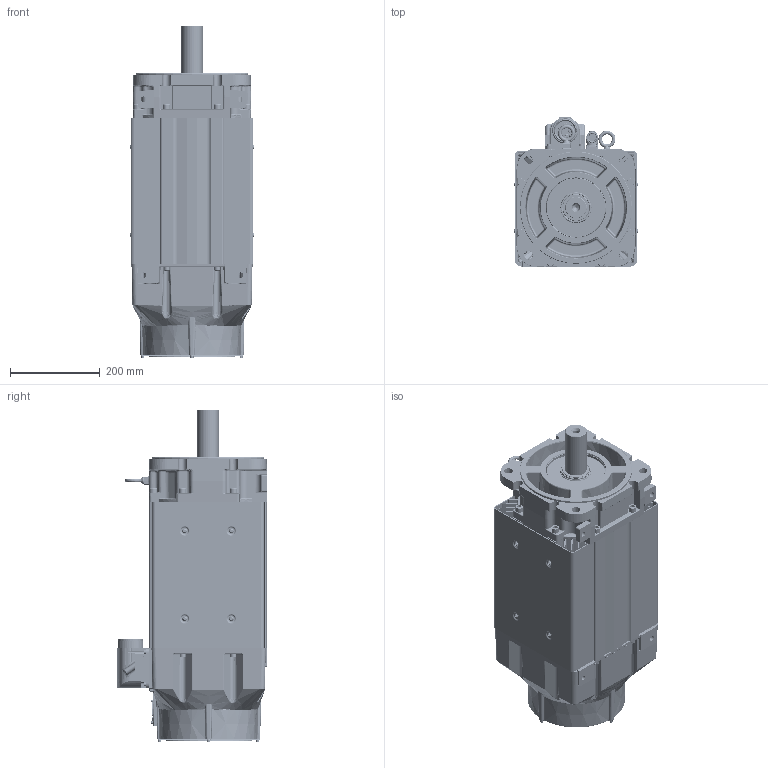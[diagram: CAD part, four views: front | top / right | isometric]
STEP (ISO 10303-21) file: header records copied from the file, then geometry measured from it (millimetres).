
FILE_DESCRIPTION((''),'2;1');
FILE_NAME('VPC-B3004D-SK72FX_ASM','2016-09-27T',('SRGaddam'),('Rockwell Automation'),'PRO/ENGINEER BY PARAMETRIC TECHNOLOGY CORPORATION, 2012480','PRO/ENGINEER BY PARAMETRIC TECHNOLOGY CORPORATION, 2012480','');
FILE_SCHEMA(('CONFIG_CONTROL_DESIGN'));
Products named in the file (39): 10001404634_AF0; 10001404629_AF6; 10001404635_ASM; 10001585735; 10001441958; 10001737030; 10001448101; 10001587021; 10001405269_AF71; 10001405240_AF78; 10001405370_ASM; 10001946256; 10001956852; 10001989665; 10001713549_ASM; M4X7X14-SOCHD-CAP-SCR; 10001978970; 10001336508; 10001587431; CH4X063; 10001299929; 10001284567; 10000172464; 10001445961; 221404-Q12; 10000231113; 10002279234; 10001443420_ASM; 10001609981; 0002-5004; 10001586887; 10001439756; M58; 10001586879; 142414_623; 135798_623; 142414-1_623_ASM; M623_ASM; VPC-B3004D-SK72FX_ASM
Assembly tree (77 placements, depth 4):
  VPC-B3004D-SK72FX_ASM
    10001404635_ASM
      10001404634_AF0
      10001404629_AF6
    10001585735  x8
    10001441958
    10001737030
    10001448101  x2
    10001587021  x8
    10001405370_ASM
      10001405269_AF71
      10001405240_AF78
    10001443420_ASM
      10001946256
      10001713549_ASM
        10001956852
        10001989665
      M4X7X14-SOCHD-CAP-SCR  x4
      10001978970
      10001336508
      10001587431
      CH4X063  x2
      10001299929
      10001284567
      10000172464  x4
      10001445961
      221404-Q12  x5
      10000231113
      10002279234
    10001609981
    0002-5004  x2
    10001586887  x6
    10001439756
    M58
    10001586879  x4
    M623_ASM
      142414-1_623_ASM
        142414_623
        135798_623
      10000172464  x4
Bounding box: 275.91 x 335.29 x 739.85 mm (x, y, z)
Volume: 12363529.5 mm3; surface area: 2990589.3 mm2
Topology: 83 solids, 84 shells, 7965 faces, 19015 edges, 11493 vertices
Faces by surface type: cylinder 2471, plane 2356, bspline 1168, cone 1150, torus 660, sphere 139, extrusion 21
Entity records: 228949 total; most frequent: CARTESIAN_POINT 94200, ORIENTED_EDGE 28762, DIRECTION 26874, EDGE_CURVE 14381, AXIS2_PLACEMENT_3D 10297, VERTEX_POINT 8928, EDGE_LOOP 6443, VECTOR 6280
